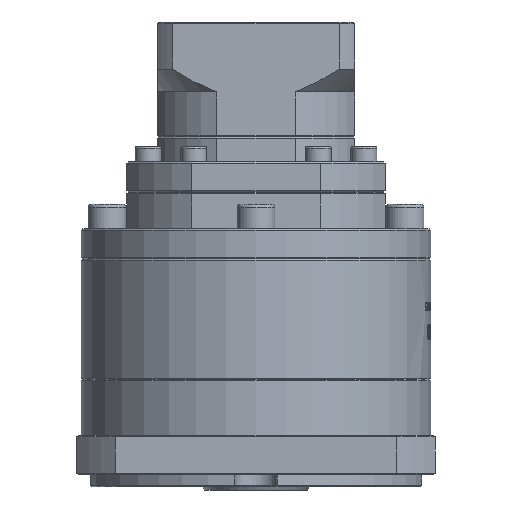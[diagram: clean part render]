
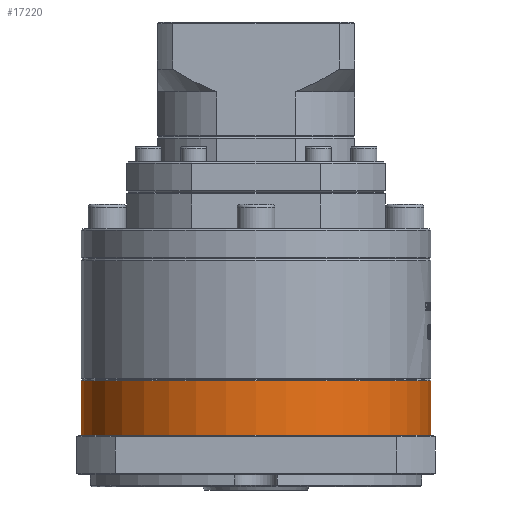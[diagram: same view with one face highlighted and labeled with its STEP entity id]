
A CAD part, front view. The second image highlights one B-rep face of the part: STEP entity #17220.
In plain terms, the highlighted cylindrical face has radius 57.5 mm (diameter 115 mm), a partial arc.
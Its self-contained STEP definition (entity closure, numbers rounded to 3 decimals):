
#10809 = EDGE_CURVE ( 'NONE', #12341, #79681, #91108, .T. ) ;
#10846 = LINE ( 'NONE', #103022, #50748 ) ;
#12341 = VERTEX_POINT ( 'NONE', #29429 ) ;
#17220 = ADVANCED_FACE ( 'NONE', ( #103434 ), #92739, .T. ) ;
#23614 = CARTESIAN_POINT ( 'NONE',  ( -63.178, 47.371, -92.607 ) ) ;
#28148 = VERTEX_POINT ( 'NONE', #54785 ) ;
#28988 = CIRCLE ( 'NONE', #51119, 57.5 ) ;
#29173 = ORIENTED_EDGE ( 'NONE', *, *, #101435, .F. ) ;
#29429 = CARTESIAN_POINT ( 'NONE',  ( -120.678, 47.371, -92.607 ) ) ;
#31295 = CARTESIAN_POINT ( 'NONE',  ( -63.178, 47.371, -74.607 ) ) ;
#32113 = DIRECTION ( 'NONE',  ( 1., 0., 0. ) ) ;
#36830 = CARTESIAN_POINT ( 'NONE',  ( -63.178, 47.371, -92.607 ) ) ;
#37345 = ORIENTED_EDGE ( 'NONE', *, *, #38672, .F. ) ;
#38672 = EDGE_CURVE ( 'NONE', #12341, #91942, #10846, .T. ) ;
#39908 = DIRECTION ( 'NONE',  ( -1., 0., 0. ) ) ;
#46113 = DIRECTION ( 'NONE',  ( 1., 0., 0. ) ) ;
#48907 = EDGE_CURVE ( 'NONE', #79681, #28148, #53141, .T. ) ;
#49211 = ORIENTED_EDGE ( 'NONE', *, *, #10809, .T. ) ;
#50748 = VECTOR ( 'NONE', #69272, 1000. ) ;
#51119 = AXIS2_PLACEMENT_3D ( 'NONE', #31295, #90589, #39908 ) ;
#51774 = AXIS2_PLACEMENT_3D ( 'NONE', #23614, #82925, #32113 ) ;
#53141 = LINE ( 'NONE', #90246, #95557 ) ;
#54785 = CARTESIAN_POINT ( 'NONE',  ( -5.678, 47.371, -74.607 ) ) ;
#55392 = EDGE_LOOP ( 'NONE', ( #37345, #49211, #106757, #29173 ) ) ;
#56548 = CARTESIAN_POINT ( 'NONE',  ( -120.678, 47.371, -74.607 ) ) ;
#59306 = AXIS2_PLACEMENT_3D ( 'NONE', #36830, #96458, #46113 ) ;
#69272 = DIRECTION ( 'NONE',  ( 0., 0., 1. ) ) ;
#78691 = CARTESIAN_POINT ( 'NONE',  ( -5.678, 47.371, -92.607 ) ) ;
#79681 = VERTEX_POINT ( 'NONE', #78691 ) ;
#82925 = DIRECTION ( 'NONE',  ( 0., 0., 1. ) ) ;
#90246 = CARTESIAN_POINT ( 'NONE',  ( -5.678, 47.371, -92.607 ) ) ;
#90589 = DIRECTION ( 'NONE',  ( 0., 0., 1. ) ) ;
#90991 = DIRECTION ( 'NONE',  ( 0., 0., 1. ) ) ;
#91108 = CIRCLE ( 'NONE', #51774, 57.5 ) ;
#91942 = VERTEX_POINT ( 'NONE', #56548 ) ;
#92739 = CYLINDRICAL_SURFACE ( 'NONE', #59306, 57.5 ) ;
#95557 = VECTOR ( 'NONE', #90991, 1000. ) ;
#96458 = DIRECTION ( 'NONE',  ( 0., 0., 1. ) ) ;
#101435 = EDGE_CURVE ( 'NONE', #91942, #28148, #28988, .T. ) ;
#103022 = CARTESIAN_POINT ( 'NONE',  ( -120.678, 47.371, -92.607 ) ) ;
#103434 = FACE_OUTER_BOUND ( 'NONE', #55392, .T. ) ;
#106757 = ORIENTED_EDGE ( 'NONE', *, *, #48907, .T. ) ;
